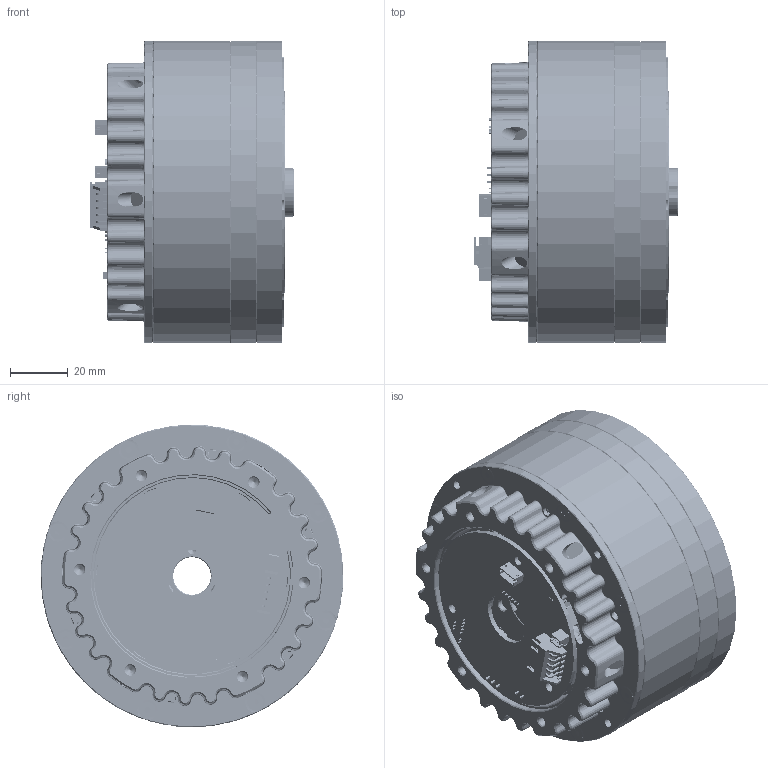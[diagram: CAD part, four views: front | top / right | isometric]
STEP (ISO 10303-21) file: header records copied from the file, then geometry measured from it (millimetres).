
FILE_DESCRIPTION(/* description */ (''),/* implementation_level */ '2;1');
FILE_NAME(/* name */ 'C:\Users\jvonderlaake\igus GmbH\T-DE-P-ReBel - ReBeL EW\12_CAD Promo\RL-SE-105_Vereinfacht.stp',/* time_stamp */ '2021-03-04T08:46:34+01:00',/* author */ ('jhellwig'),/* organization */ (''),/* preprocessor_version */ 'ST-DEVELOPER v18.1',/* originating_system */ 'Autodesk Inventor 2020',/* authorisation */ '');
FILE_SCHEMA (('AUTOMOTIVE_DESIGN { 1 0 10303 214 3 1 1 }'));
Length unit declared in the file: millimetre
Products named in the file (1): D00292439
Bounding box: 70.76 x 105 x 105 mm (x, y, z)
Volume: 281331.7 mm3; surface area: 176166.2 mm2
Topology: 136 solids, 138 shells, 11700 faces, 32916 edges, 21478 vertices
Faces by surface type: plane 6571, cylinder 4038, cone 451, bspline 297, torus 180, sphere 163
Full cylindrical faces by diameter (mm): 0.4 x3, 0.5 x71, 0.68 x2, 0.7 x35, 0.8 x1, 0.87 x3, 0.991 x3, 1 x1, 1.194 x4, 1.3 x4, 1.567 x4, 2 x3, 2.459 x18, 2.5 x4, 3 x29, 3.2 x19, 3.242 x18, 3.4 x3, 4 x6, 5 x6, 5.5 x16, 5.54 x8, 7 x2, 8 x2, 12 x6, 13 x1, 17 x1, 17.6 x1, 18 x1, 19.88 x2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
Entity records: 405880 total; most frequent: CARTESIAN_POINT 84581, ORIENTED_EDGE 65720, DIRECTION 64474, EDGE_CURVE 32863, VERTEX_POINT 21620, LINE 21542, VECTOR 21542, AXIS2_PLACEMENT_3D 21466
